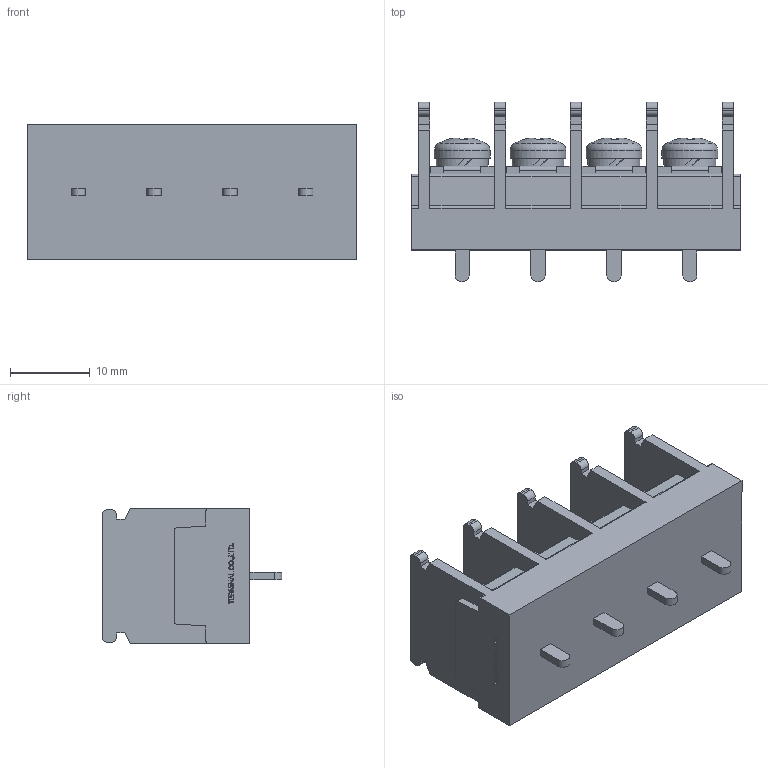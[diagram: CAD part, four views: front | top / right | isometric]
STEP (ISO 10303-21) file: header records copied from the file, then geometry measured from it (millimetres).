
FILE_DESCRIPTION(/* description */ ('Alibre Inc.'),/* implementation_level */ '2;1');
FILE_NAME(/* name */ 'export-8D718F92-9984-42FC-91F0-7555A68A0574',/* time_stamp */ '2020-11-04T18:08:53+09:00',/* author */ (''),/* organization */ (''),/* preprocessor_version */ 'ST-DEVELOPER v17',/* originating_system */ 'Alibre',/* authorisation */ '');
FILE_SCHEMA (('CONFIG_CONTROL_DESIGN'));
Length unit declared in the file: millimetre
Bounding box: 41.2 x 22.5 x 17 mm (x, y, z)
Volume: 7639.7 mm3; surface area: 5226.6 mm2
Topology: 1 solids, 21 shells, 740 faces, 1986 edges, 1320 vertices
Faces by surface type: plane 532, bspline 104, cylinder 72, cone 20, torus 8, sphere 4
Full cylindrical faces by diameter (mm): 4 x8, 6.5 x4, 7 x4
Entity records: 22270 total; most frequent: CARTESIAN_POINT 5011, ORIENTED_EDGE 3892, DIRECTION 2678, EDGE_CURVE 1946, VECTOR 1416, LINE 1416, VERTEX_POINT 1304, AXIS2_PLACEMENT_3D 883
